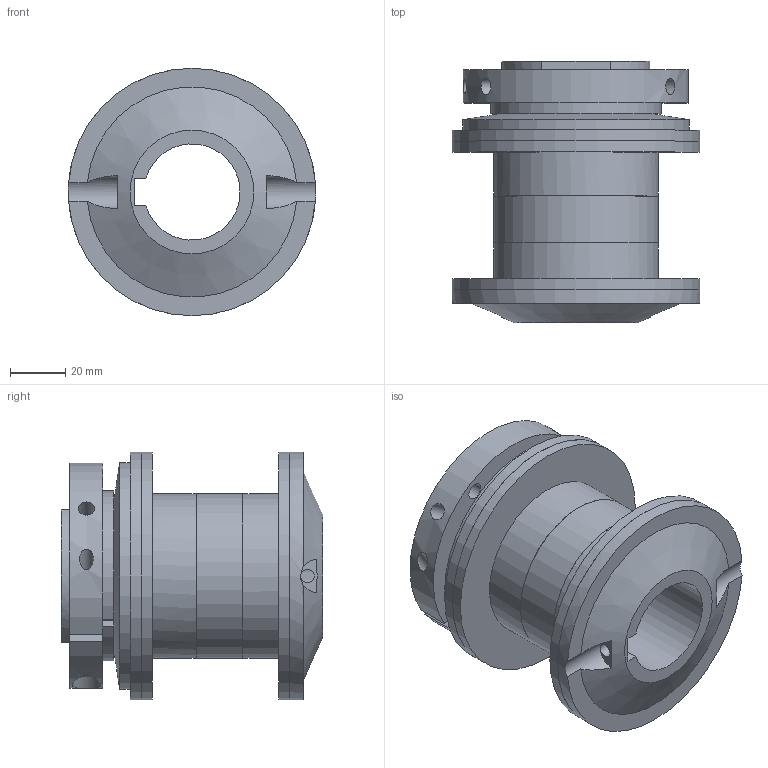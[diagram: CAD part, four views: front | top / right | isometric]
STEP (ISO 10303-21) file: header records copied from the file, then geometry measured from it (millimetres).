
FILE_DESCRIPTION( ( 'Unknown' ), '1' );
FILE_NAME( 'R:/utp/progettazione/3 D/DF/COMPLESSIVI/DF-ML/2-90 DF-ML GR.stp', 'Unknown', ( 'Unknown' ), ( 'Unknown' ), 'PSStep 10.1', 'Unknown', ' ' );
FILE_SCHEMA( ( 'AUTOMOTIVE_DESIGN { 1 0 10303 214 1 1 1 1 }' ) );
Length unit declared in the file: millimetre
Products named in the file (1): 1
Bounding box: 90 x 95 x 90 mm (x, y, z)
Volume: 258060 mm3; surface area: 75214.2 mm2
Topology: 1 solids, 1 shells, 91 faces, 266 edges, 172 vertices
Faces by surface type: plane 44, cylinder 41, cone 6
Full cylindrical faces by diameter (mm): 5.001 x2, 6 x5, 6.5 x1, 10.5 x1, 55 x1, 60 x4, 82.5 x1, 89.9 x2, 90 x2
Entity records: 4270 total; most frequent: CARTESIAN_POINT 905, DIRECTION 469, ORIENTED_EDGE 434, EDGE_CURVE 217, PRESENTATION_STYLE_ASSIGNMENT 183, COLOUR_RGB 183, AXIS2_PLACEMENT_3D 179, VERTEX_POINT 151
